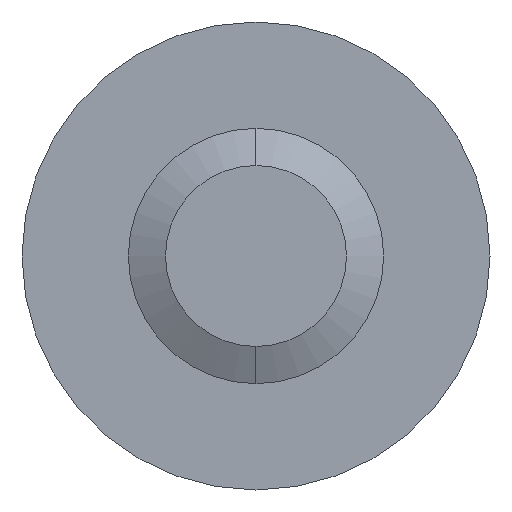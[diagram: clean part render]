
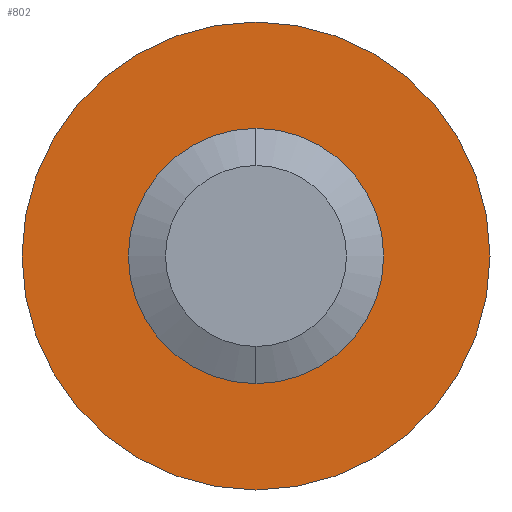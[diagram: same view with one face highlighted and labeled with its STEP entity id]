
A CAD part, left-side view. The second image highlights one B-rep face of the part: STEP entity #802.
In plain terms, the highlighted planar face has unit normal (-1, 0, 0).
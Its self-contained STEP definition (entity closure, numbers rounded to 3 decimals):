
#79 = VERTEX_POINT ( 'NONE', #2417 ) ;
#105 = DIRECTION ( 'NONE',  ( 0., 0., 1. ) ) ;
#185 = AXIS2_PLACEMENT_3D ( 'NONE', #1514, #1511, #1510 ) ;
#231 = AXIS2_PLACEMENT_3D ( 'NONE', #3981, #2121, #105 ) ;
#356 = VERTEX_POINT ( 'NONE', #4094 ) ;
#382 = AXIS2_PLACEMENT_3D ( 'NONE', #1747, #1743, #1738 ) ;
#623 = CARTESIAN_POINT ( 'NONE',  ( 11.655, 0., -1.202 ) ) ;
#668 = ORIENTED_EDGE ( 'NONE', *, *, #2945, .F. ) ;
#742 = CIRCLE ( 'NONE', #231, 2.75 ) ;
#754 = DIRECTION ( 'NONE',  ( -1., 0., 0. ) ) ;
#775 = ORIENTED_EDGE ( 'NONE', *, *, #2017, .F. ) ;
#802 = ADVANCED_FACE ( 'NONE', ( #829, #3023 ), #3011, .F. ) ;
#826 = ORIENTED_EDGE ( 'NONE', *, *, #1744, .T. ) ;
#827 = AXIS2_PLACEMENT_3D ( 'NONE', #3059, #3167, #3008 ) ;
#829 = FACE_BOUND ( 'NONE', #1299, .T. ) ;
#867 = CIRCLE ( 'NONE', #3509, 1.202 ) ;
#885 = ORIENTED_EDGE ( 'NONE', *, *, #3970, .T. ) ;
#1141 = EDGE_LOOP ( 'NONE', ( #885, #826 ) ) ;
#1299 = EDGE_LOOP ( 'NONE', ( #775, #668 ) ) ;
#1375 = CARTESIAN_POINT ( 'NONE',  ( 11.655, 0., 2.75 ) ) ;
#1510 = DIRECTION ( 'NONE',  ( 0., 0., 1. ) ) ;
#1511 = DIRECTION ( 'NONE',  ( -1., 0., 0. ) ) ;
#1514 = CARTESIAN_POINT ( 'NONE',  ( 11.655, 0., 0. ) ) ;
#1738 = DIRECTION ( 'NONE',  ( 0., 0., 1. ) ) ;
#1743 = DIRECTION ( 'NONE',  ( -1., 0., 0. ) ) ;
#1744 = EDGE_CURVE ( 'NONE', #79, #2889, #2926, .T. ) ;
#1747 = CARTESIAN_POINT ( 'NONE',  ( 11.655, 0., 0. ) ) ;
#1876 = VERTEX_POINT ( 'NONE', #623 ) ;
#2017 = EDGE_CURVE ( 'NONE', #1876, #356, #3076, .T. ) ;
#2121 = DIRECTION ( 'NONE',  ( -1., 0., 0. ) ) ;
#2417 = CARTESIAN_POINT ( 'NONE',  ( 11.655, 0., -2.75 ) ) ;
#2736 = CARTESIAN_POINT ( 'NONE',  ( 11.655, 0., 0. ) ) ;
#2889 = VERTEX_POINT ( 'NONE', #1375 ) ;
#2926 = CIRCLE ( 'NONE', #382, 2.75 ) ;
#2945 = EDGE_CURVE ( 'NONE', #356, #1876, #867, .T. ) ;
#3008 = DIRECTION ( 'NONE',  ( 0., 0., -1. ) ) ;
#3011 = PLANE ( 'NONE',  #827 ) ;
#3023 = FACE_OUTER_BOUND ( 'NONE', #1141, .T. ) ;
#3045 = DIRECTION ( 'NONE',  ( 0., 0., 1. ) ) ;
#3059 = CARTESIAN_POINT ( 'NONE',  ( 11.655, 2.75, 0. ) ) ;
#3076 = CIRCLE ( 'NONE', #185, 1.202 ) ;
#3167 = DIRECTION ( 'NONE',  ( 1., 0., 0. ) ) ;
#3509 = AXIS2_PLACEMENT_3D ( 'NONE', #2736, #754, #3045 ) ;
#3970 = EDGE_CURVE ( 'NONE', #2889, #79, #742, .T. ) ;
#3981 = CARTESIAN_POINT ( 'NONE',  ( 11.655, 0., 0. ) ) ;
#4094 = CARTESIAN_POINT ( 'NONE',  ( 11.655, 0., 1.202 ) ) ;
